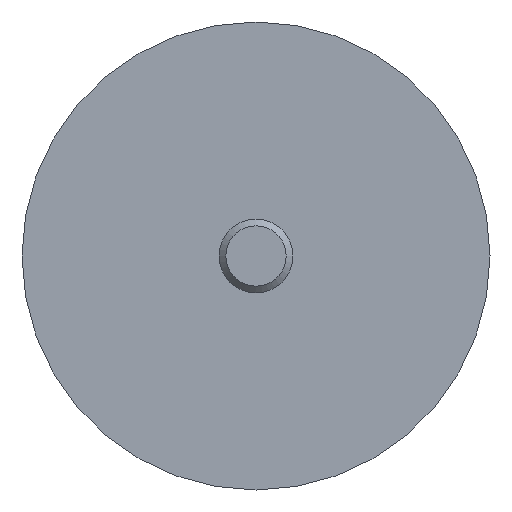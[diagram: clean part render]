
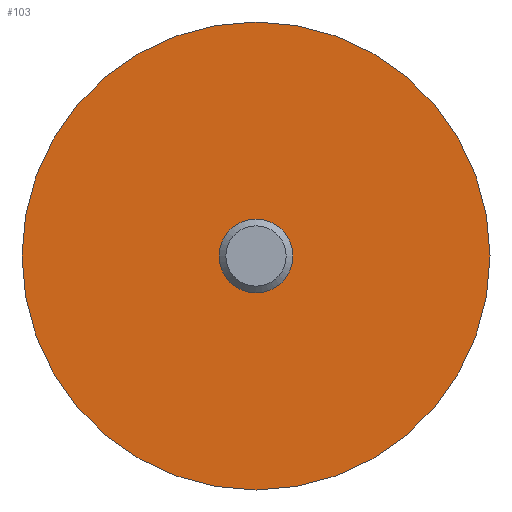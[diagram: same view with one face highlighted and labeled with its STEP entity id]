
A CAD part, front view. The second image highlights one B-rep face of the part: STEP entity #103.
In plain terms, the highlighted planar face has unit normal (0, -1, 0).
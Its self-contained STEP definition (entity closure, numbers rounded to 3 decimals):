
#12 = CARTESIAN_POINT ( 'NONE',  ( 0., -146.705, 0. ) ) ;
#21 = ORIENTED_EDGE ( 'NONE', *, *, #111, .T. ) ;
#24 = DIRECTION ( 'NONE',  ( 0., 0., 1. ) ) ;
#28 = CARTESIAN_POINT ( 'NONE',  ( 0., -146.705, 3. ) ) ;
#44 = FACE_BOUND ( 'NONE', #141, .T. ) ;
#45 = VERTEX_POINT ( 'NONE', #115 ) ;
#46 = EDGE_CURVE ( 'NONE', #45, #45, #221, .T. ) ;
#48 = DIRECTION ( 'NONE',  ( 0., 0., 1. ) ) ;
#54 = AXIS2_PLACEMENT_3D ( 'NONE', #12, #96, #174 ) ;
#63 = CARTESIAN_POINT ( 'NONE',  ( 0., -146.705, 0. ) ) ;
#68 = CARTESIAN_POINT ( 'NONE',  ( 0., -146.705, 0. ) ) ;
#85 = AXIS2_PLACEMENT_3D ( 'NONE', #68, #152, #48 ) ;
#96 = DIRECTION ( 'NONE',  ( 0., 1., 0. ) ) ;
#103 = ADVANCED_FACE ( 'NONE', ( #187, #44 ), #116, .F. ) ;
#108 = ORIENTED_EDGE ( 'NONE', *, *, #46, .F. ) ;
#111 = EDGE_CURVE ( 'NONE', #186, #186, #177, .T. ) ;
#115 = CARTESIAN_POINT ( 'NONE',  ( 0., -146.705, 19. ) ) ;
#116 = PLANE ( 'NONE',  #85 ) ;
#141 = EDGE_LOOP ( 'NONE', ( #21 ) ) ;
#145 = AXIS2_PLACEMENT_3D ( 'NONE', #63, #220, #24 ) ;
#152 = DIRECTION ( 'NONE',  ( 0., 1., 0. ) ) ;
#174 = DIRECTION ( 'NONE',  ( 0., 0., 1. ) ) ;
#177 = CIRCLE ( 'NONE', #54, 3. ) ;
#186 = VERTEX_POINT ( 'NONE', #28 ) ;
#187 = FACE_OUTER_BOUND ( 'NONE', #195, .T. ) ;
#195 = EDGE_LOOP ( 'NONE', ( #108 ) ) ;
#220 = DIRECTION ( 'NONE',  ( 0., 1., 0. ) ) ;
#221 = CIRCLE ( 'NONE', #145, 19. ) ;
